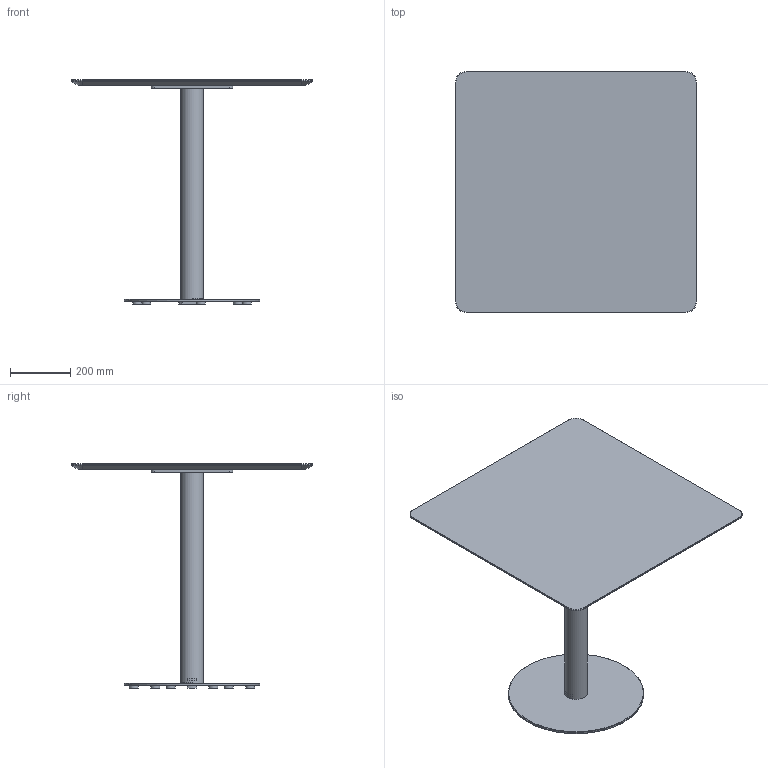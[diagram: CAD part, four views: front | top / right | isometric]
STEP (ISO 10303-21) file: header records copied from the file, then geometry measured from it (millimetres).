
FILE_DESCRIPTION( ('This file contains a STEP AP42 implementation' ,'as created by ZW3D STEP Interface translator.') ,'2;1' );
FILE_NAME( 'Henri - B_Rond - F3 - M5 - 800 x 800 x 750.stp' ,'24 912.154542', (''), ('ZWCAD Software Co.'), 'Version 1.0', 'ZW3D to STEP translator', '' );
FILE_SCHEMA(('AUTOMOTIVE_DESIGN { 1 0 10303 214 1 1 1 1 }'));
Length unit declared in the file: millimetre
Products named in the file (14): 0; PIED BISTROT PARAMETRIQUE_; COLONNE ACIER Ø76 V.02_; TUB-D076-02_; PLA-R76B-01_; SOCLE ACIER C Ø450 V.02_; SCL-D450-02_; PLA-R30A-01_; PLA-R30A-01; CROIX ACIER 370 V.02_; CRX-X370-02_; WUERTH 0276063020 Euro-screw 6.3x2 Verzinkt_; PLATEAU BISTROT PARAMETRIQUE_; insert_m6_13_
Assembly tree (24 placements, depth 3):
  0
  PIED BISTROT PARAMETRIQUE_
    COLONNE ACIER Ø76 V.02_
      TUB-D076-02_
      PLA-R76B-01_  x2
    SOCLE ACIER C Ø450 V.02_
      SCL-D450-02_
      PLA-R30A-01_
      PLA-R30A-01  x5
    CROIX ACIER 370 V.02_
      CRX-X370-02_
    WUERTH 0276063020 Euro-screw 6.3x2 Verzinkt_
    PLATEAU BISTROT PARAMETRIQUE_
      insert_m6_13_  x8
Bounding box: 800 x 800 x 744 mm (x, y, z)
Volume: 14396574 mm3; surface area: 2157863 mm2
Topology: 21 solids, 21 shells, 524 faces, 1273 edges, 802 vertices
Faces by surface type: plane 254, bspline 121, cylinder 99, cone 49, torus 1
Full cylindrical faces by diameter (mm): 4.88 x1, 6 x8, 6.3 x1, 8 x47, 12 x2, 14 x2, 30 x6, 72 x1, 76 x1, 450 x1
Entity records: 11734 total; most frequent: CARTESIAN_POINT 3302, ORIENTED_EDGE 1526, DIRECTION 1424, EDGE_CURVE 763, VERTEX_POINT 490, VECTOR 476, LINE 476, AXIS2_PLACEMENT_3D 474
